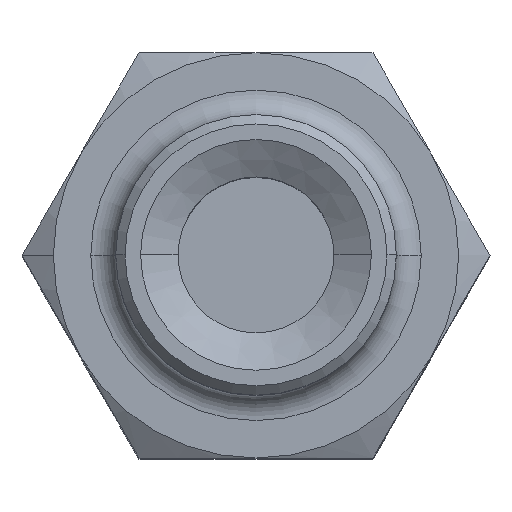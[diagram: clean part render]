
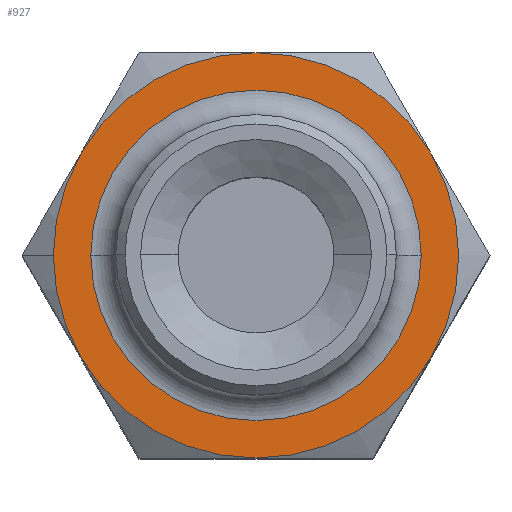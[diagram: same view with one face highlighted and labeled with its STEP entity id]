
A CAD part, top view. The second image highlights one B-rep face of the part: STEP entity #927.
In plain terms, the highlighted planar face has unit normal (0, 0, 1).
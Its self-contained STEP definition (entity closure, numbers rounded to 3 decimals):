
#4 = ORIENTED_EDGE ( 'NONE', *, *, #916, .F. ) ;
#10 = CIRCLE ( 'NONE', #303, 6.5 ) ;
#28 = DIRECTION ( 'NONE',  ( 1., 0., 0. ) ) ;
#47 = DIRECTION ( 'NONE',  ( 0., 0., -1. ) ) ;
#48 = ORIENTED_EDGE ( 'NONE', *, *, #468, .F. ) ;
#66 = AXIS2_PLACEMENT_3D ( 'NONE', #792, #513, #422 ) ;
#103 = CARTESIAN_POINT ( 'NONE',  ( -5.629, -3.25, 23.5 ) ) ;
#113 = CARTESIAN_POINT ( 'NONE',  ( 0., 0., 23.5 ) ) ;
#120 = CARTESIAN_POINT ( 'NONE',  ( 0., 0., 23.5 ) ) ;
#125 = CIRCLE ( 'NONE', #671, 5.3 ) ;
#135 = DIRECTION ( 'NONE',  ( -1., 0., 0. ) ) ;
#187 = CIRCLE ( 'NONE', #66, 6.5 ) ;
#209 = DIRECTION ( 'NONE',  ( 0., 0., -1. ) ) ;
#211 = CIRCLE ( 'NONE', #766, 6.5 ) ;
#218 = PLANE ( 'NONE',  #329 ) ;
#219 = DIRECTION ( 'NONE',  ( -1., 0., 0. ) ) ;
#232 = EDGE_LOOP ( 'NONE', ( #4, #750, #1003, #979, #387, #819, #48 ) ) ;
#268 = VERTEX_POINT ( 'NONE', #352 ) ;
#271 = CIRCLE ( 'NONE', #561, 6.5 ) ;
#277 = DIRECTION ( 'NONE',  ( 0., 0., -1. ) ) ;
#303 = AXIS2_PLACEMENT_3D ( 'NONE', #806, #277, #650 ) ;
#329 = AXIS2_PLACEMENT_3D ( 'NONE', #839, #855, #399 ) ;
#340 = EDGE_CURVE ( 'NONE', #508, #433, #125, .T. ) ;
#341 = CARTESIAN_POINT ( 'NONE',  ( 0., 0., 23.5 ) ) ;
#352 = CARTESIAN_POINT ( 'NONE',  ( 5.629, -3.25, 23.5 ) ) ;
#376 = CARTESIAN_POINT ( 'NONE',  ( 0., 0., 23.5 ) ) ;
#387 = ORIENTED_EDGE ( 'NONE', *, *, #797, .F. ) ;
#392 = CARTESIAN_POINT ( 'NONE',  ( 0., 0., 23.5 ) ) ;
#399 = DIRECTION ( 'NONE',  ( 1., 0., 0. ) ) ;
#419 = VERTEX_POINT ( 'NONE', #560 ) ;
#422 = DIRECTION ( 'NONE',  ( -1., 0., 0. ) ) ;
#433 = VERTEX_POINT ( 'NONE', #660 ) ;
#446 = VERTEX_POINT ( 'NONE', #921 ) ;
#464 = DIRECTION ( 'NONE',  ( 0., 0., -1. ) ) ;
#467 = CIRCLE ( 'NONE', #1148, 6.5 ) ;
#468 = EDGE_CURVE ( 'NONE', #446, #725, #467, .T. ) ;
#469 = DIRECTION ( 'NONE',  ( 0., 0., -1. ) ) ;
#471 = DIRECTION ( 'NONE',  ( -1., 0., 0. ) ) ;
#487 = VERTEX_POINT ( 'NONE', #926 ) ;
#508 = VERTEX_POINT ( 'NONE', #1135 ) ;
#513 = DIRECTION ( 'NONE',  ( 0., 0., -1. ) ) ;
#552 = DIRECTION ( 'NONE',  ( 1., 0., 0. ) ) ;
#556 = VERTEX_POINT ( 'NONE', #852 ) ;
#560 = CARTESIAN_POINT ( 'NONE',  ( -6.5, 0., 23.5 ) ) ;
#561 = AXIS2_PLACEMENT_3D ( 'NONE', #120, #209, #471 ) ;
#587 = DIRECTION ( 'NONE',  ( 0., 0., -1. ) ) ;
#625 = CIRCLE ( 'NONE', #1123, 6.5 ) ;
#643 = DIRECTION ( 'NONE',  ( 0., 0., -1. ) ) ;
#650 = DIRECTION ( 'NONE',  ( -1., 0., 0. ) ) ;
#660 = CARTESIAN_POINT ( 'NONE',  ( 5.3, 0., 23.5 ) ) ;
#668 = CIRCLE ( 'NONE', #942, 6.5 ) ;
#671 = AXIS2_PLACEMENT_3D ( 'NONE', #113, #643, #28 ) ;
#687 = CARTESIAN_POINT ( 'NONE',  ( 0., 6.5, 23.5 ) ) ;
#725 = VERTEX_POINT ( 'NONE', #103 ) ;
#740 = EDGE_CURVE ( 'NONE', #433, #508, #1045, .T. ) ;
#750 = ORIENTED_EDGE ( 'NONE', *, *, #1037, .F. ) ;
#764 = EDGE_CURVE ( 'NONE', #487, #1027, #668, .T. ) ;
#766 = AXIS2_PLACEMENT_3D ( 'NONE', #1118, #587, #135 ) ;
#775 = AXIS2_PLACEMENT_3D ( 'NONE', #897, #464, #552 ) ;
#792 = CARTESIAN_POINT ( 'NONE',  ( 0., 0., 23.5 ) ) ;
#797 = EDGE_CURVE ( 'NONE', #419, #487, #10, .T. ) ;
#805 = DIRECTION ( 'NONE',  ( -1., 0., 0. ) ) ;
#806 = CARTESIAN_POINT ( 'NONE',  ( 0., 0., 23.5 ) ) ;
#819 = ORIENTED_EDGE ( 'NONE', *, *, #832, .F. ) ;
#832 = EDGE_CURVE ( 'NONE', #725, #419, #271, .T. ) ;
#839 = CARTESIAN_POINT ( 'NONE',  ( 0., 0., 23.5 ) ) ;
#852 = CARTESIAN_POINT ( 'NONE',  ( 5.629, 3.25, 23.5 ) ) ;
#855 = DIRECTION ( 'NONE',  ( 0., 0., 1. ) ) ;
#897 = CARTESIAN_POINT ( 'NONE',  ( 0., 0., 23.5 ) ) ;
#901 = ORIENTED_EDGE ( 'NONE', *, *, #340, .T. ) ;
#916 = EDGE_CURVE ( 'NONE', #268, #446, #211, .T. ) ;
#921 = CARTESIAN_POINT ( 'NONE',  ( 0., -6.5, 23.5 ) ) ;
#926 = CARTESIAN_POINT ( 'NONE',  ( -5.629, 3.25, 23.5 ) ) ;
#927 = ADVANCED_FACE ( 'NONE', ( #1087, #952 ), #218, .T. ) ;
#942 = AXIS2_PLACEMENT_3D ( 'NONE', #376, #469, #805 ) ;
#952 = FACE_OUTER_BOUND ( 'NONE', #232, .T. ) ;
#956 = DIRECTION ( 'NONE',  ( -1., 0., 0. ) ) ;
#976 = EDGE_LOOP ( 'NONE', ( #1061, #901 ) ) ;
#979 = ORIENTED_EDGE ( 'NONE', *, *, #764, .F. ) ;
#1003 = ORIENTED_EDGE ( 'NONE', *, *, #1051, .F. ) ;
#1027 = VERTEX_POINT ( 'NONE', #687 ) ;
#1037 = EDGE_CURVE ( 'NONE', #556, #268, #187, .T. ) ;
#1038 = DIRECTION ( 'NONE',  ( 0., 0., -1. ) ) ;
#1045 = CIRCLE ( 'NONE', #775, 5.3 ) ;
#1051 = EDGE_CURVE ( 'NONE', #1027, #556, #625, .T. ) ;
#1061 = ORIENTED_EDGE ( 'NONE', *, *, #740, .T. ) ;
#1087 = FACE_BOUND ( 'NONE', #976, .T. ) ;
#1118 = CARTESIAN_POINT ( 'NONE',  ( 0., 0., 23.5 ) ) ;
#1123 = AXIS2_PLACEMENT_3D ( 'NONE', #341, #1038, #956 ) ;
#1135 = CARTESIAN_POINT ( 'NONE',  ( -5.3, 0., 23.5 ) ) ;
#1148 = AXIS2_PLACEMENT_3D ( 'NONE', #392, #47, #219 ) ;
